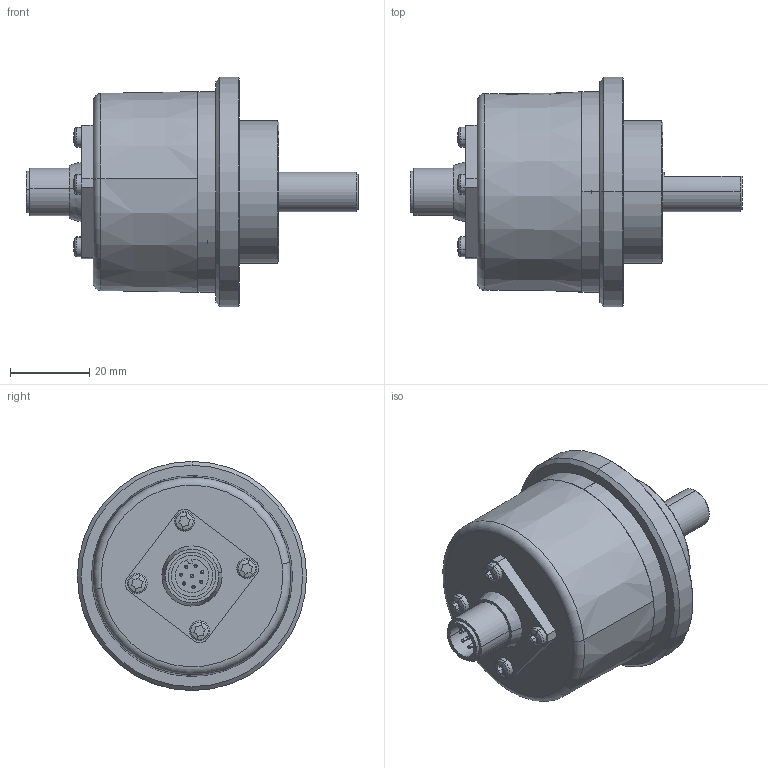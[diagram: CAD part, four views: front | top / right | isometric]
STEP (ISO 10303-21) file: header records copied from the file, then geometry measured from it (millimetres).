
FILE_DESCRIPTION (( 'STEP AP214' ), '1' );
FILE_NAME ('5000.83X3.XXXX.STEP', '2009-09-30T05:37:46', ( 'admin' ), ( 'Fritz Kübler GmbH' ), 'SwSTEP 2.0', 'SolidWorks 2009', '' );
FILE_SCHEMA (( 'AUTOMOTIVE_DESIGN' ));
Length unit declared in the file: millimetre
Products named in the file (1): 5000.83X3.XXXX
Bounding box: 84 x 58 x 58 mm (x, y, z)
Volume: 49353.6 mm3; surface area: 32079.8 mm2
Topology: 9 solids, 10 shells, 496 faces, 1193 edges, 719 vertices
Faces by surface type: cylinder 141, plane 140, cone 85, torus 67, sphere 51, bspline 12
Entity records: 20475 total; most frequent: CARTESIAN_POINT 3555, DIRECTION 2613, ORIENTED_EDGE 2190, AXIS2_PLACEMENT_3D 1105, EDGE_CURVE 1095, VERTEX_POINT 673, CIRCLE 620, EDGE_LOOP 586
